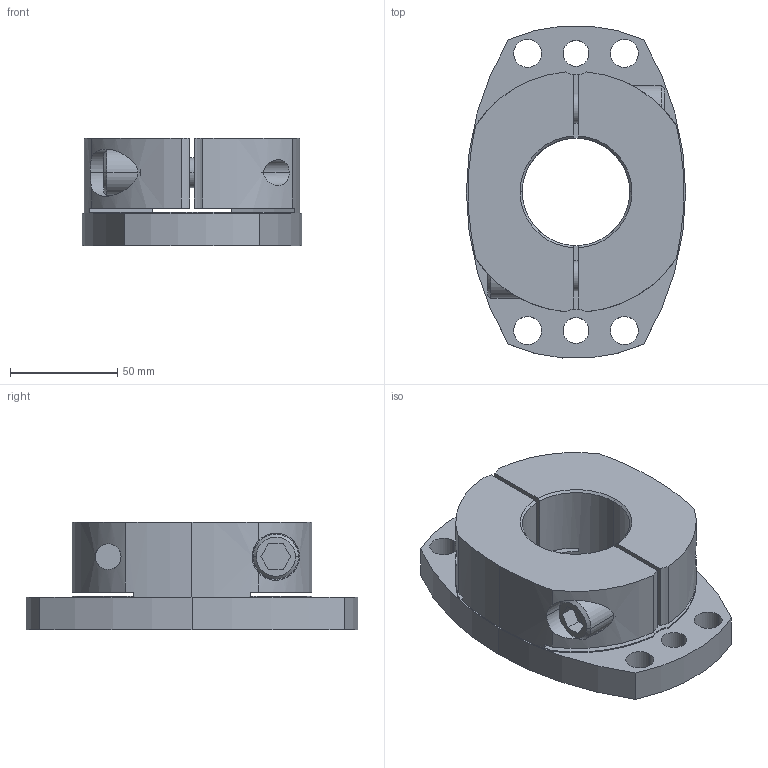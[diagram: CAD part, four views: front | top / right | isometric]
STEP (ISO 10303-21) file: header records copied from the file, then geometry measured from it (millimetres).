
FILE_DESCRIPTION((''),'2;1');
FILE_NAME('SHDB-155B-50.stp','2026-01-28T09:01:09',(''),(''),'AutoCAD STEP 2000i','AutoCAD 2000i',', , ');
FILE_SCHEMA(('CONFIG_CONTROL_DESIGN'));
Length unit declared in the file: millimetre
Products named in the file (2): SHDB-155B-45; 忣兜1
Assembly tree (1 placements, depth 2):
  SHDB-155B-45
    忣兜1
Bounding box: 102 x 154.46 x 50 mm (x, y, z)
Volume: 396620.6 mm3; surface area: 68919.7 mm2
Topology: 1 solids, 1 shells, 102 faces, 274 edges, 180 vertices
Faces by surface type: cylinder 58, plane 34, cone 10
Entity records: 3673 total; most frequent: CARTESIAN_POINT 874, DIRECTION 600, ORIENTED_EDGE 548, EDGE_CURVE 274, AXIS2_PLACEMENT_3D 238, VERTEX_POINT 180, CIRCLE 134, EDGE_LOOP 126
